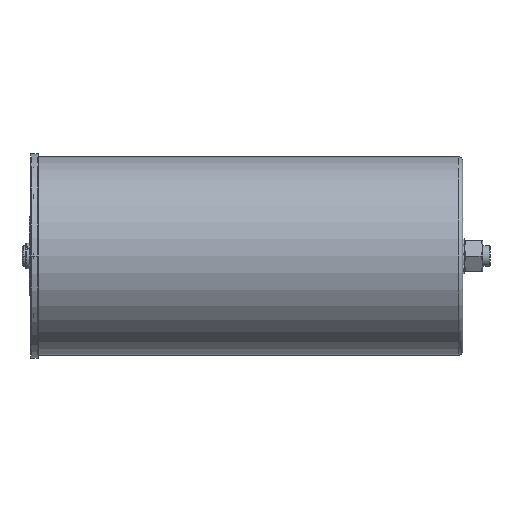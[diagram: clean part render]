
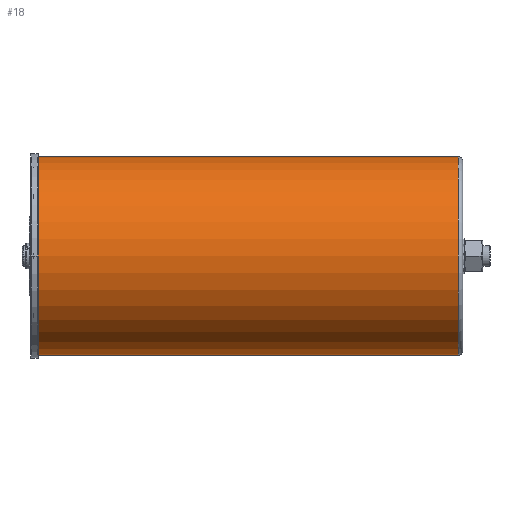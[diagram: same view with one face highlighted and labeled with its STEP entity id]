
A CAD part, left-side view. The second image highlights one B-rep face of the part: STEP entity #18.
In plain terms, the highlighted cylindrical face has radius 58 mm (diameter 116 mm), a partial arc.
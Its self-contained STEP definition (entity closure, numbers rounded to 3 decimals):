
#18 = ADVANCED_FACE ( 'NONE', ( #5748 ), #1552, .T. ) ;
#145 = DIRECTION ( 'NONE',  ( 0., 1., 0. ) ) ;
#192 = DIRECTION ( 'NONE',  ( 0., 0., -1. ) ) ;
#317 = CIRCLE ( 'NONE', #8659, 58. ) ;
#413 = CARTESIAN_POINT ( 'NONE',  ( 0., -248.9, 58. ) ) ;
#642 = ORIENTED_EDGE ( 'NONE', *, *, #11471, .T. ) ;
#913 = ORIENTED_EDGE ( 'NONE', *, *, #1440, .T. ) ;
#1440 = EDGE_CURVE ( 'NONE', #4981, #6236, #317, .T. ) ;
#1552 = CYLINDRICAL_SURFACE ( 'NONE', #6869, 58. ) ;
#1923 = EDGE_CURVE ( 'NONE', #4981, #7937, #2853, .T. ) ;
#1931 = DIRECTION ( 'NONE',  ( 0., -1., 0. ) ) ;
#2853 = LINE ( 'NONE', #11035, #9877 ) ;
#2915 = DIRECTION ( 'NONE',  ( 0., -1., 0. ) ) ;
#3064 = CARTESIAN_POINT ( 'NONE',  ( 0., -248.9, 0. ) ) ;
#3075 = DIRECTION ( 'NONE',  ( 0., 0., -1. ) ) ;
#3986 = ORIENTED_EDGE ( 'NONE', *, *, #1923, .F. ) ;
#4981 = VERTEX_POINT ( 'NONE', #11442 ) ;
#5088 = DIRECTION ( 'NONE',  ( 0., -1., 0. ) ) ;
#5612 = CIRCLE ( 'NONE', #10930, 58. ) ;
#5748 = FACE_OUTER_BOUND ( 'NONE', #9783, .T. ) ;
#6236 = VERTEX_POINT ( 'NONE', #12134 ) ;
#6406 = LINE ( 'NONE', #9622, #8768 ) ;
#6533 = VERTEX_POINT ( 'NONE', #9289 ) ;
#6869 = AXIS2_PLACEMENT_3D ( 'NONE', #9834, #5088, #192 ) ;
#7011 = ORIENTED_EDGE ( 'NONE', *, *, #10375, .T. ) ;
#7937 = VERTEX_POINT ( 'NONE', #413 ) ;
#7994 = CARTESIAN_POINT ( 'NONE',  ( 0., -0.6, 0. ) ) ;
#8659 = AXIS2_PLACEMENT_3D ( 'NONE', #7994, #10793, #3075 ) ;
#8768 = VECTOR ( 'NONE', #1931, 1000. ) ;
#9289 = CARTESIAN_POINT ( 'NONE',  ( 0., -248.9, -58. ) ) ;
#9622 = CARTESIAN_POINT ( 'NONE',  ( 0., -251.4, -58. ) ) ;
#9713 = DIRECTION ( 'NONE',  ( 0., 0., -1. ) ) ;
#9783 = EDGE_LOOP ( 'NONE', ( #3986, #913, #7011, #642 ) ) ;
#9834 = CARTESIAN_POINT ( 'NONE',  ( 0., -251.4, 0. ) ) ;
#9877 = VECTOR ( 'NONE', #2915, 1000. ) ;
#10375 = EDGE_CURVE ( 'NONE', #6236, #6533, #6406, .T. ) ;
#10793 = DIRECTION ( 'NONE',  ( 0., -1., 0. ) ) ;
#10930 = AXIS2_PLACEMENT_3D ( 'NONE', #3064, #145, #9713 ) ;
#11035 = CARTESIAN_POINT ( 'NONE',  ( 0., -251.4, 58. ) ) ;
#11442 = CARTESIAN_POINT ( 'NONE',  ( 0., -0.6, 58. ) ) ;
#11471 = EDGE_CURVE ( 'NONE', #6533, #7937, #5612, .T. ) ;
#12134 = CARTESIAN_POINT ( 'NONE',  ( 0., -0.6, -58. ) ) ;
